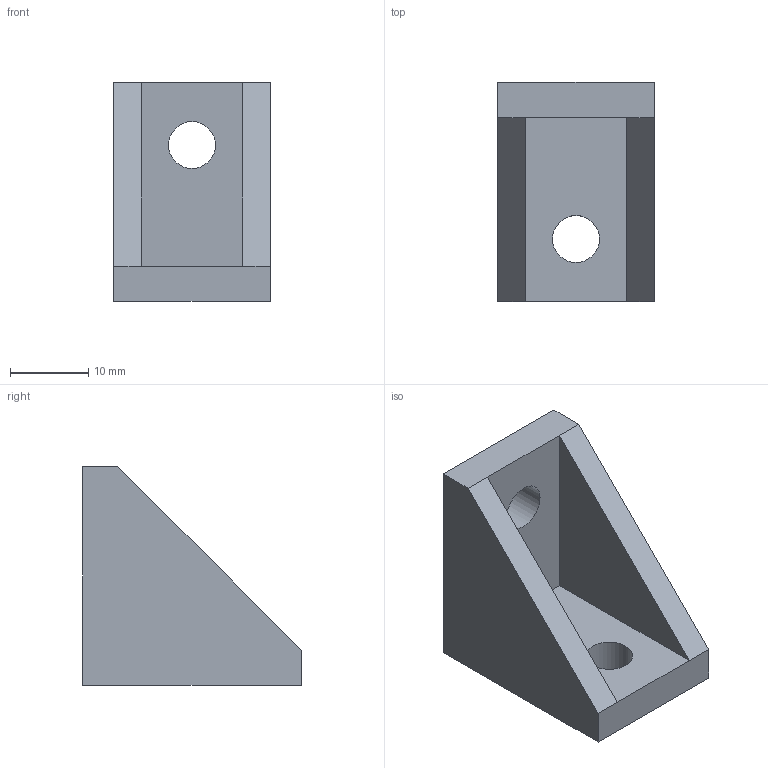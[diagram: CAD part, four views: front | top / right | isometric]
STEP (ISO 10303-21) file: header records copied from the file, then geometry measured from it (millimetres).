
FILE_DESCRIPTION(/* description */ ('Unknown'),/* implementation_level */ '2;1');
FILE_NAME(/* name */ 'DL2030',/* time_stamp */ '2026-09-17T10:55:22+08:00',/* author */ ('Unknown'),/* organization */ ('Unknown'),/* preprocessor_version */ 'ST-DEVELOPER v16.7',/* originating_system */ 'DEX',/* authorisation */ $);
FILE_SCHEMA (('AUTOMOTIVE_DESIGN {1 0 10303 214 3 1 1}'));
Length unit declared in the file: millimetre
Products named in the file (1): DL2030
Bounding box: 20 x 28 x 28 mm (x, y, z)
Volume: 6313.4 mm3; surface area: 3768.2 mm2
Topology: 1 solids, 1 shells, 14 faces, 33 edges, 21 vertices
Faces by surface type: plane 12, cylinder 2
Full cylindrical faces by diameter (mm): 6 x2
Entity records: 416 total; most frequent: CARTESIAN_POINT 65, DIRECTION 64, ORIENTED_EDGE 60, EDGE_CURVE 30, LINE 26, VECTOR 26, VERTEX_POINT 20, EDGE_LOOP 20
